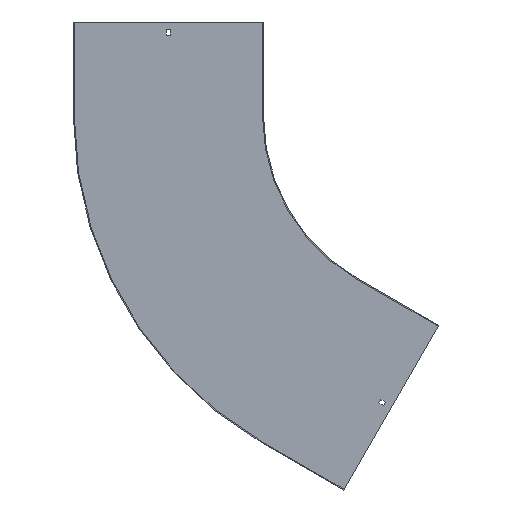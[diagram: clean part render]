
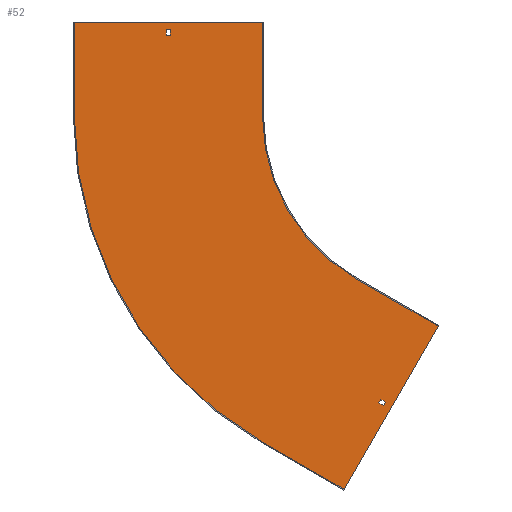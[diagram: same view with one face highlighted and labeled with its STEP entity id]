
A CAD part, front view. The second image highlights one B-rep face of the part: STEP entity #52.
In plain terms, the highlighted planar face has unit normal (0, -1, 0).
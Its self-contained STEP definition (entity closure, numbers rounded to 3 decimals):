
#4 = CARTESIAN_POINT ( 'NONE',  ( -300., -1.5, 0. ) ) ;
#9 = VECTOR ( 'NONE', #58, 1000. ) ;
#15 = EDGE_CURVE ( 'NONE', #313, #276, #759, .T. ) ;
#21 = PLANE ( 'NONE',  #401 ) ;
#22 = ORIENTED_EDGE ( 'NONE', *, *, #734, .T. ) ;
#26 = VECTOR ( 'NONE', #230, 1000. ) ;
#29 = VERTEX_POINT ( 'NONE', #376 ) ;
#32 = VECTOR ( 'NONE', #49, 1000. ) ;
#34 = EDGE_CURVE ( 'NONE', #261, #762, #368, .T. ) ;
#47 = CARTESIAN_POINT ( 'NONE',  ( -446.75, -1.5, 138. ) ) ;
#49 = DIRECTION ( 'NONE',  ( 0., 0., -1. ) ) ;
#51 = LINE ( 'NONE', #461, #594 ) ;
#52 = ADVANCED_FACE ( 'NONE', ( #292, #284, #625 ), #21, .T. ) ;
#58 = DIRECTION ( 'NONE',  ( -0.866, 0., 0.5 ) ) ;
#65 = DIRECTION ( 'NONE',  ( 1., 0., 0. ) ) ;
#85 = LINE ( 'NONE', #756, #519 ) ;
#104 = ORIENTED_EDGE ( 'NONE', *, *, #590, .F. ) ;
#113 = ORIENTED_EDGE ( 'NONE', *, *, #15, .F. ) ;
#117 = CARTESIAN_POINT ( 'NONE',  ( -600., -1.5, 0. ) ) ;
#128 = CARTESIAN_POINT ( 'NONE',  ( -453.25, -1.5, 138. ) ) ;
#130 = EDGE_CURVE ( 'NONE', #276, #380, #409, .T. ) ;
#141 = CARTESIAN_POINT ( 'NONE',  ( -601.5, -1.5, 150. ) ) ;
#142 = VERTEX_POINT ( 'NONE', #551 ) ;
#154 = VECTOR ( 'NONE', #248, 1000. ) ;
#160 = LINE ( 'NONE', #421, #729 ) ;
#161 = ORIENTED_EDGE ( 'NONE', *, *, #579, .F. ) ;
#162 = LINE ( 'NONE', #827, #9 ) ;
#174 = VERTEX_POINT ( 'NONE', #672 ) ;
#179 = VERTEX_POINT ( 'NONE', #373 ) ;
#180 = VERTEX_POINT ( 'NONE', #592 ) ;
#184 = ORIENTED_EDGE ( 'NONE', *, *, #610, .T. ) ;
#185 = CARTESIAN_POINT ( 'NONE',  ( 0., -1.5, 0. ) ) ;
#187 = CARTESIAN_POINT ( 'NONE',  ( -300., -1.5, 150. ) ) ;
#199 = CARTESIAN_POINT ( 'NONE',  ( -150., -1.5, -259.808 ) ) ;
#226 = CARTESIAN_POINT ( 'NONE',  ( 111.717, -1.5, -64.5 ) ) ;
#228 = CARTESIAN_POINT ( 'NONE',  ( -446.75, -1.5, 129. ) ) ;
#230 = DIRECTION ( 'NONE',  ( 0.866, 0., -0.5 ) ) ;
#231 = CARTESIAN_POINT ( 'NONE',  ( -600., -1.5, 150. ) ) ;
#242 = ORIENTED_EDGE ( 'NONE', *, *, #813, .F. ) ;
#245 = EDGE_CURVE ( 'NONE', #380, #29, #51, .T. ) ;
#248 = DIRECTION ( 'NONE',  ( 0., 0., -1. ) ) ;
#258 = DIRECTION ( 'NONE',  ( 0., 1., 0. ) ) ;
#261 = VERTEX_POINT ( 'NONE', #47 ) ;
#276 = VERTEX_POINT ( 'NONE', #544 ) ;
#284 = FACE_OUTER_BOUND ( 'NONE', #628, .T. ) ;
#291 = VECTOR ( 'NONE', #757, 1000. ) ;
#292 = FACE_BOUND ( 'NONE', #847, .T. ) ;
#293 = VECTOR ( 'NONE', #452, 1000. ) ;
#299 = VERTEX_POINT ( 'NONE', #128 ) ;
#305 = ORIENTED_EDGE ( 'NONE', *, *, #780, .F. ) ;
#313 = VERTEX_POINT ( 'NONE', #855 ) ;
#315 = EDGE_CURVE ( 'NONE', #29, #313, #727, .T. ) ;
#323 = LINE ( 'NONE', #593, #429 ) ;
#330 = EDGE_CURVE ( 'NONE', #179, #174, #548, .T. ) ;
#345 = AXIS2_PLACEMENT_3D ( 'NONE', #538, #258, #849 ) ;
#348 = VECTOR ( 'NONE', #435, 1000. ) ;
#368 = LINE ( 'NONE', #573, #154 ) ;
#373 = CARTESIAN_POINT ( 'NONE',  ( -300., -1.5, -519.615 ) ) ;
#376 = CARTESIAN_POINT ( 'NONE',  ( -107.113, -1.5, -461.526 ) ) ;
#379 = EDGE_LOOP ( 'NONE', ( #512, #440, #22, #184 ) ) ;
#380 = VERTEX_POINT ( 'NONE', #794 ) ;
#390 = LINE ( 'NONE', #187, #32 ) ;
#401 = AXIS2_PLACEMENT_3D ( 'NONE', #738, #798, #745 ) ;
#409 = LINE ( 'NONE', #226, #431 ) ;
#421 = CARTESIAN_POINT ( 'NONE',  ( -19.346, -1.5, -333.509 ) ) ;
#427 = DIRECTION ( 'NONE',  ( 0., 0., -1. ) ) ;
#429 = VECTOR ( 'NONE', #715, 1000. ) ;
#431 = VECTOR ( 'NONE', #677, 1000. ) ;
#433 = VERTEX_POINT ( 'NONE', #199 ) ;
#435 = DIRECTION ( 'NONE',  ( -0.866, 0., 0.5 ) ) ;
#439 = VECTOR ( 'NONE', #776, 1000. ) ;
#440 = ORIENTED_EDGE ( 'NONE', *, *, #34, .T. ) ;
#452 = DIRECTION ( 'NONE',  ( 0.5, 0., 0.866 ) ) ;
#454 = ORIENTED_EDGE ( 'NONE', *, *, #130, .F. ) ;
#461 = CARTESIAN_POINT ( 'NONE',  ( -226.625, -1.5, -392.526 ) ) ;
#474 = LINE ( 'NONE', #141, #784 ) ;
#478 = ORIENTED_EDGE ( 'NONE', *, *, #315, .F. ) ;
#500 = CARTESIAN_POINT ( 'NONE',  ( -20.096, -1.5, -334.808 ) ) ;
#506 = VERTEX_POINT ( 'NONE', #231 ) ;
#512 = ORIENTED_EDGE ( 'NONE', *, *, #806, .T. ) ;
#518 = ORIENTED_EDGE ( 'NONE', *, *, #330, .F. ) ;
#519 = VECTOR ( 'NONE', #619, 1000. ) ;
#537 = AXIS2_PLACEMENT_3D ( 'NONE', #185, #565, #427 ) ;
#538 = CARTESIAN_POINT ( 'NONE',  ( 0., -1.5, 0. ) ) ;
#544 = CARTESIAN_POINT ( 'NONE',  ( -111.658, -1.5, -451.397 ) ) ;
#548 = CIRCLE ( 'NONE', #345, 600. ) ;
#551 = CARTESIAN_POINT ( 'NONE',  ( -300., -1.5, 150. ) ) ;
#565 = DIRECTION ( 'NONE',  ( 0., -1., 0. ) ) ;
#573 = CARTESIAN_POINT ( 'NONE',  ( -446.75, -1.5, 0. ) ) ;
#579 = EDGE_CURVE ( 'NONE', #783, #179, #162, .T. ) ;
#590 = EDGE_CURVE ( 'NONE', #433, #691, #785, .T. ) ;
#592 = CARTESIAN_POINT ( 'NONE',  ( -453.25, -1.5, 129. ) ) ;
#593 = CARTESIAN_POINT ( 'NONE',  ( -453.25, -1.5, 0. ) ) ;
#594 = VECTOR ( 'NONE', #649, 1000. ) ;
#605 = ORIENTED_EDGE ( 'NONE', *, *, #666, .F. ) ;
#610 = EDGE_CURVE ( 'NONE', #180, #299, #323, .T. ) ;
#613 = EDGE_CURVE ( 'NONE', #174, #506, #859, .T. ) ;
#619 = DIRECTION ( 'NONE',  ( -1., 0., 0. ) ) ;
#625 = FACE_BOUND ( 'NONE', #379, .T. ) ;
#627 = CARTESIAN_POINT ( 'NONE',  ( -170.096, -1.5, -594.615 ) ) ;
#628 = EDGE_LOOP ( 'NONE', ( #834, #733, #518, #161, #305, #104, #605, #242 ) ) ;
#649 = DIRECTION ( 'NONE',  ( 0.866, 0., -0.5 ) ) ;
#653 = CARTESIAN_POINT ( 'NONE',  ( -150., -1.5, -259.808 ) ) ;
#654 = CARTESIAN_POINT ( 'NONE',  ( 119.512, -1.5, -69. ) ) ;
#666 = EDGE_CURVE ( 'NONE', #838, #433, #837, .T. ) ;
#672 = CARTESIAN_POINT ( 'NONE',  ( -600., -1.5, 0. ) ) ;
#677 = DIRECTION ( 'NONE',  ( -0.5, 0., -0.866 ) ) ;
#679 = ORIENTED_EDGE ( 'NONE', *, *, #245, .F. ) ;
#689 = DIRECTION ( 'NONE',  ( -0.5, 0., -0.866 ) ) ;
#691 = VERTEX_POINT ( 'NONE', #500 ) ;
#715 = DIRECTION ( 'NONE',  ( 0., 0., 1. ) ) ;
#727 = LINE ( 'NONE', #654, #293 ) ;
#729 = VECTOR ( 'NONE', #689, 1000. ) ;
#733 = ORIENTED_EDGE ( 'NONE', *, *, #613, .F. ) ;
#734 = EDGE_CURVE ( 'NONE', #762, #180, #85, .T. ) ;
#738 = CARTESIAN_POINT ( 'NONE',  ( 0., -1.5, 0. ) ) ;
#745 = DIRECTION ( 'NONE',  ( 0., 0., -1. ) ) ;
#756 = CARTESIAN_POINT ( 'NONE',  ( 0., -1.5, 129. ) ) ;
#757 = DIRECTION ( 'NONE',  ( 0., 0., 1. ) ) ;
#759 = LINE ( 'NONE', #766, #348 ) ;
#762 = VERTEX_POINT ( 'NONE', #228 ) ;
#766 = CARTESIAN_POINT ( 'NONE',  ( -223.375, -1.5, -386.897 ) ) ;
#776 = DIRECTION ( 'NONE',  ( 1., 0., 0. ) ) ;
#780 = EDGE_CURVE ( 'NONE', #691, #783, #160, .T. ) ;
#783 = VERTEX_POINT ( 'NONE', #627 ) ;
#784 = VECTOR ( 'NONE', #65, 1000. ) ;
#785 = LINE ( 'NONE', #653, #26 ) ;
#786 = LINE ( 'NONE', #845, #439 ) ;
#794 = CARTESIAN_POINT ( 'NONE',  ( -114.908, -1.5, -457.026 ) ) ;
#798 = DIRECTION ( 'NONE',  ( 0., -1., 0. ) ) ;
#806 = EDGE_CURVE ( 'NONE', #299, #261, #786, .T. ) ;
#813 = EDGE_CURVE ( 'NONE', #142, #838, #390, .T. ) ;
#825 = EDGE_CURVE ( 'NONE', #506, #142, #474, .T. ) ;
#827 = CARTESIAN_POINT ( 'NONE',  ( -170.096, -1.5, -594.615 ) ) ;
#834 = ORIENTED_EDGE ( 'NONE', *, *, #825, .F. ) ;
#837 = CIRCLE ( 'NONE', #537, 300. ) ;
#838 = VERTEX_POINT ( 'NONE', #4 ) ;
#845 = CARTESIAN_POINT ( 'NONE',  ( 0., -1.5, 138. ) ) ;
#847 = EDGE_LOOP ( 'NONE', ( #113, #478, #679, #454 ) ) ;
#849 = DIRECTION ( 'NONE',  ( 0., 0., -1. ) ) ;
#855 = CARTESIAN_POINT ( 'NONE',  ( -103.863, -1.5, -455.897 ) ) ;
#859 = LINE ( 'NONE', #117, #291 ) ;
